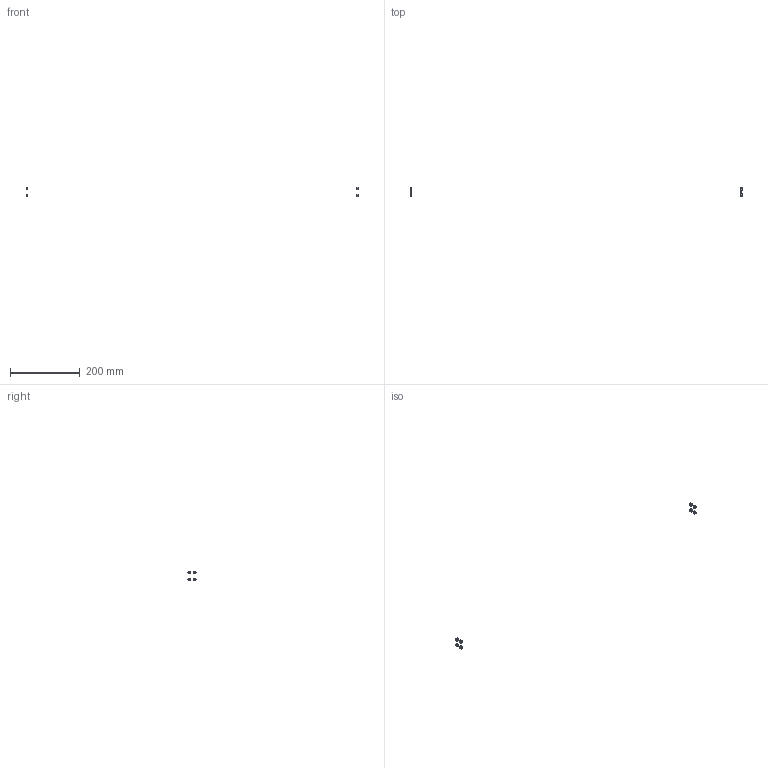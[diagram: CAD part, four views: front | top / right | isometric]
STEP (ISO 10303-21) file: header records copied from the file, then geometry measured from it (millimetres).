
FILE_DESCRIPTION(/* description */ (''),/* implementation_level */ '2;1');
FILE_NAME(/* name */ '10.optics-laser#10.4#PACK-UNUT5',/* time_stamp */ '2014-12-01T20:19:23+01:00',/* author */ (''),/* organization */ (''),/* preprocessor_version */ 'ST-DEVELOPER v14',/* originating_system */ '',/* authorisation */ '');
FILE_SCHEMA (('AUTOMOTIVE_DESIGN'));
Length unit declared in the file: millimetre
Products named in the file (2): Document; nut DIN985-like, lock, M5
Assembly tree (8 placements, depth 2):
  Document
    nut DIN985-like, lock, M5  x8
Bounding box: 954.6 x 24.24 x 28 mm (x, y, z)
Volume: 1407.8 mm3; surface area: 2174 mm2
Topology: 8 solids, 8 shells, 432 faces, 1040 edges, 624 vertices
Faces by surface type: bspline 248, plane 184
Entity records: 3630 total; most frequent: CARTESIAN_POINT 1921, ORIENTED_EDGE 260, PCURVE 260, DEFINITIONAL_REPRESENTATION 260, B_SPLINE_CURVE_WITH_KNOTS 249, SURFACE_CURVE 130, EDGE_CURVE 130, VERTEX_POINT 78
